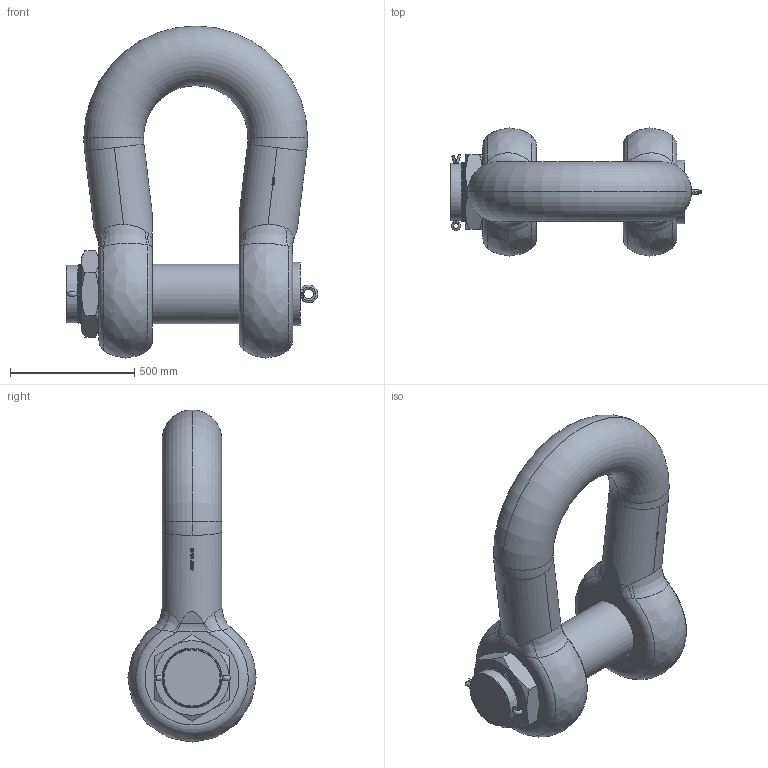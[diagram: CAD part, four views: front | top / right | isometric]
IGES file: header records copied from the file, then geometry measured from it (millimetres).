
Global section: file name: No Iges File Name specified; native system: Autodesk Inventor 2009; preprocessor: AutoDesk Inventor Iges Exporter R2009; author: Jack; date: 20091212.144052; units: millimetre
Bounding box: 1011 x 515 x 1335.49 mm (x, y, z)
Volume: 185935116.1 mm3; surface area: 3860780.5 mm2
Topology: 5 solids, 5 shells, 841 faces, 2245 edges, 1473 vertices
Faces by surface type: plane 398, bspline 251, cylinder 114, revolution 36, torus 22, cone 20
Full cylindrical faces by diameter (mm): 240 x17
